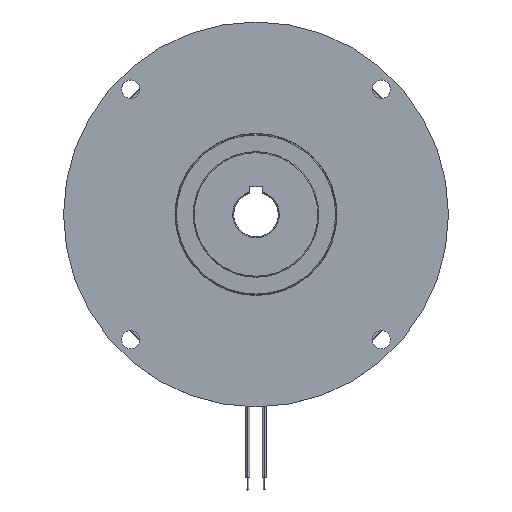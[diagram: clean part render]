
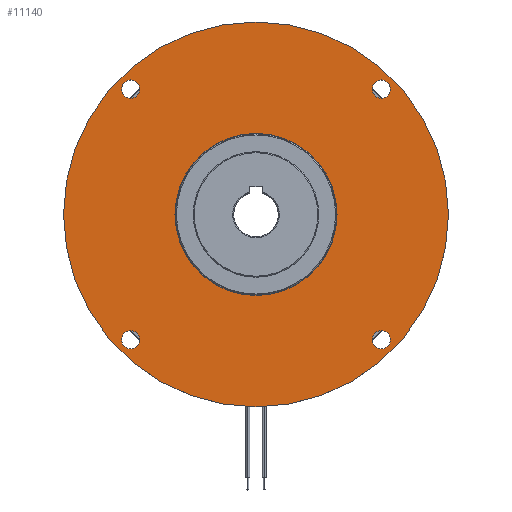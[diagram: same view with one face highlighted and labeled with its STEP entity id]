
A CAD part, top view. The second image highlights one B-rep face of the part: STEP entity #11140.
In plain terms, the highlighted planar face has unit normal (0, 0, 1).
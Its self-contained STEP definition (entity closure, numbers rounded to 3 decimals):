
#18 = ORIENTED_EDGE ( 'NONE', *, *, #7373, .T. ) ;
#30 = ORIENTED_EDGE ( 'NONE', *, *, #7235, .T. ) ;
#134 = CIRCLE ( 'NONE', #18789, 40. ) ;
#138 = CARTESIAN_POINT ( 'NONE',  ( -95., 0., 0. ) ) ;
#245 = AXIS2_PLACEMENT_3D ( 'NONE', #16481, #1233, #24253 ) ;
#446 = CIRCLE ( 'NONE', #14615, 4.5 ) ;
#602 = DIRECTION ( 'NONE',  ( 0., 0., -1. ) ) ;
#657 = AXIS2_PLACEMENT_3D ( 'NONE', #1292, #14985, #7130 ) ;
#1233 = DIRECTION ( 'NONE',  ( 0., 0., -1. ) ) ;
#1292 = CARTESIAN_POINT ( 'NONE',  ( -61.872, 61.872, 0. ) ) ;
#1339 = AXIS2_PLACEMENT_3D ( 'NONE', #4431, #2659, #24353 ) ;
#1462 = EDGE_LOOP ( 'NONE', ( #7911, #4846 ) ) ;
#1552 = CARTESIAN_POINT ( 'NONE',  ( 57.372, -61.872, 0. ) ) ;
#1815 = DIRECTION ( 'NONE',  ( 0., 0., -1. ) ) ;
#1866 = AXIS2_PLACEMENT_3D ( 'NONE', #4340, #21508, #15507 ) ;
#2236 = CARTESIAN_POINT ( 'NONE',  ( 95., 0., 0. ) ) ;
#2257 = CARTESIAN_POINT ( 'NONE',  ( -61.872, -61.872, 0. ) ) ;
#2659 = DIRECTION ( 'NONE',  ( 0., 0., -1. ) ) ;
#2697 = AXIS2_PLACEMENT_3D ( 'NONE', #14528, #4865, #10723 ) ;
#3231 = CARTESIAN_POINT ( 'NONE',  ( 66.372, -61.872, 0. ) ) ;
#3463 = EDGE_CURVE ( 'NONE', #24511, #10963, #6293, .T. ) ;
#3589 = ORIENTED_EDGE ( 'NONE', *, *, #7072, .T. ) ;
#3897 = ORIENTED_EDGE ( 'NONE', *, *, #17173, .T. ) ;
#4066 = DIRECTION ( 'NONE',  ( 0., 0., -1. ) ) ;
#4340 = CARTESIAN_POINT ( 'NONE',  ( 0., 95., 0. ) ) ;
#4391 = DIRECTION ( 'NONE',  ( -1., 0., 0. ) ) ;
#4428 = CARTESIAN_POINT ( 'NONE',  ( -40., 0., 0. ) ) ;
#4431 = CARTESIAN_POINT ( 'NONE',  ( 0., 0., 0. ) ) ;
#4680 = CIRCLE ( 'NONE', #657, 4.5 ) ;
#4846 = ORIENTED_EDGE ( 'NONE', *, *, #3463, .T. ) ;
#4865 = DIRECTION ( 'NONE',  ( 0., 0., -1. ) ) ;
#5722 = FACE_BOUND ( 'NONE', #20612, .T. ) ;
#5845 = ORIENTED_EDGE ( 'NONE', *, *, #14021, .T. ) ;
#6293 = CIRCLE ( 'NONE', #20484, 4.5 ) ;
#6324 = CIRCLE ( 'NONE', #245, 4.5 ) ;
#6563 = EDGE_CURVE ( 'NONE', #10963, #24511, #20200, .T. ) ;
#7018 = VERTEX_POINT ( 'NONE', #138 ) ;
#7072 = EDGE_CURVE ( 'NONE', #19446, #14042, #19822, .T. ) ;
#7130 = DIRECTION ( 'NONE',  ( -1., 0., 0. ) ) ;
#7143 = VERTEX_POINT ( 'NONE', #18292 ) ;
#7235 = EDGE_CURVE ( 'NONE', #19044, #13735, #23498, .T. ) ;
#7373 = EDGE_CURVE ( 'NONE', #7143, #12130, #19019, .T. ) ;
#7634 = FACE_BOUND ( 'NONE', #1462, .T. ) ;
#7645 = DIRECTION ( 'NONE',  ( -1., 0., 0. ) ) ;
#7791 = VERTEX_POINT ( 'NONE', #2236 ) ;
#7834 = DIRECTION ( 'NONE',  ( -1., 0., 0. ) ) ;
#7878 = AXIS2_PLACEMENT_3D ( 'NONE', #22440, #602, #16588 ) ;
#7911 = ORIENTED_EDGE ( 'NONE', *, *, #6563, .T. ) ;
#8169 = CARTESIAN_POINT ( 'NONE',  ( -66.372, -61.872, 0. ) ) ;
#8189 = CARTESIAN_POINT ( 'NONE',  ( -61.872, 61.872, 0. ) ) ;
#8523 = EDGE_CURVE ( 'NONE', #21946, #20994, #446, .T. ) ;
#8651 = EDGE_LOOP ( 'NONE', ( #30, #11498 ) ) ;
#8703 = DIRECTION ( 'NONE',  ( -1., 0., 0. ) ) ;
#9167 = CIRCLE ( 'NONE', #2697, 4.5 ) ;
#9697 = CARTESIAN_POINT ( 'NONE',  ( -61.872, -61.872, 0. ) ) ;
#9922 = CARTESIAN_POINT ( 'NONE',  ( 61.872, -61.872, 0. ) ) ;
#10094 = AXIS2_PLACEMENT_3D ( 'NONE', #9922, #4066, #23021 ) ;
#10723 = DIRECTION ( 'NONE',  ( -1., 0., 0. ) ) ;
#10963 = VERTEX_POINT ( 'NONE', #8169 ) ;
#11140 = ADVANCED_FACE ( 'NONE', ( #19213, #16798, #7634, #5722, #18707, #24585 ), #14878, .F. ) ;
#11182 = CARTESIAN_POINT ( 'NONE',  ( -57.372, 61.872, 0. ) ) ;
#11272 = CARTESIAN_POINT ( 'NONE',  ( 40., 0., 0. ) ) ;
#11437 = CARTESIAN_POINT ( 'NONE',  ( 57.372, 61.872, 0. ) ) ;
#11498 = ORIENTED_EDGE ( 'NONE', *, *, #20202, .T. ) ;
#11721 = AXIS2_PLACEMENT_3D ( 'NONE', #14709, #22480, #18785 ) ;
#11745 = ORIENTED_EDGE ( 'NONE', *, *, #20271, .F. ) ;
#11796 = DIRECTION ( 'NONE',  ( 0., 0., -1. ) ) ;
#12130 = VERTEX_POINT ( 'NONE', #11437 ) ;
#12563 = EDGE_LOOP ( 'NONE', ( #24449, #18 ) ) ;
#13629 = EDGE_CURVE ( 'NONE', #12130, #7143, #6324, .T. ) ;
#13735 = VERTEX_POINT ( 'NONE', #11272 ) ;
#13966 = CARTESIAN_POINT ( 'NONE',  ( 0., 0., 0. ) ) ;
#14021 = EDGE_CURVE ( 'NONE', #20994, #21946, #4680, .T. ) ;
#14042 = VERTEX_POINT ( 'NONE', #1552 ) ;
#14528 = CARTESIAN_POINT ( 'NONE',  ( 61.872, -61.872, 0. ) ) ;
#14615 = AXIS2_PLACEMENT_3D ( 'NONE', #8189, #21819, #4391 ) ;
#14709 = CARTESIAN_POINT ( 'NONE',  ( 0., 0., 0. ) ) ;
#14878 = PLANE ( 'NONE',  #1866 ) ;
#14974 = CARTESIAN_POINT ( 'NONE',  ( -57.372, -61.872, 0. ) ) ;
#14985 = DIRECTION ( 'NONE',  ( 0., 0., -1. ) ) ;
#15202 = EDGE_CURVE ( 'NONE', #7791, #7018, #24956, .T. ) ;
#15329 = CARTESIAN_POINT ( 'NONE',  ( 61.872, 61.872, 0. ) ) ;
#15507 = DIRECTION ( 'NONE',  ( -1., 0., 0. ) ) ;
#16481 = CARTESIAN_POINT ( 'NONE',  ( 61.872, 61.872, 0. ) ) ;
#16584 = AXIS2_PLACEMENT_3D ( 'NONE', #15329, #11796, #7834 ) ;
#16588 = DIRECTION ( 'NONE',  ( -1., 0., 0. ) ) ;
#16798 = FACE_BOUND ( 'NONE', #16826, .T. ) ;
#16826 = EDGE_LOOP ( 'NONE', ( #3897, #3589 ) ) ;
#17173 = EDGE_CURVE ( 'NONE', #14042, #19446, #9167, .T. ) ;
#17793 = DIRECTION ( 'NONE',  ( -1., 0., 0. ) ) ;
#18292 = CARTESIAN_POINT ( 'NONE',  ( 66.372, 61.872, 0. ) ) ;
#18707 = FACE_OUTER_BOUND ( 'NONE', #25103, .T. ) ;
#18785 = DIRECTION ( 'NONE',  ( -1., 0., 0. ) ) ;
#18789 = AXIS2_PLACEMENT_3D ( 'NONE', #13966, #21474, #17793 ) ;
#19019 = CIRCLE ( 'NONE', #16584, 4.5 ) ;
#19044 = VERTEX_POINT ( 'NONE', #4428 ) ;
#19213 = FACE_BOUND ( 'NONE', #12563, .T. ) ;
#19446 = VERTEX_POINT ( 'NONE', #3231 ) ;
#19684 = CARTESIAN_POINT ( 'NONE',  ( -66.372, 61.872, 0. ) ) ;
#19822 = CIRCLE ( 'NONE', #10094, 4.5 ) ;
#20200 = CIRCLE ( 'NONE', #20614, 4.5 ) ;
#20202 = EDGE_CURVE ( 'NONE', #13735, #19044, #134, .T. ) ;
#20271 = EDGE_CURVE ( 'NONE', #7018, #7791, #20416, .T. ) ;
#20416 = CIRCLE ( 'NONE', #1339, 95. ) ;
#20484 = AXIS2_PLACEMENT_3D ( 'NONE', #2257, #22692, #8703 ) ;
#20612 = EDGE_LOOP ( 'NONE', ( #24834, #5845 ) ) ;
#20614 = AXIS2_PLACEMENT_3D ( 'NONE', #9697, #1815, #7645 ) ;
#20994 = VERTEX_POINT ( 'NONE', #11182 ) ;
#21474 = DIRECTION ( 'NONE',  ( 0., 0., -1. ) ) ;
#21508 = DIRECTION ( 'NONE',  ( 0., 0., -1. ) ) ;
#21819 = DIRECTION ( 'NONE',  ( 0., 0., -1. ) ) ;
#21946 = VERTEX_POINT ( 'NONE', #19684 ) ;
#22440 = CARTESIAN_POINT ( 'NONE',  ( 0., 0., 0. ) ) ;
#22480 = DIRECTION ( 'NONE',  ( 0., 0., -1. ) ) ;
#22692 = DIRECTION ( 'NONE',  ( 0., 0., -1. ) ) ;
#23021 = DIRECTION ( 'NONE',  ( -1., 0., 0. ) ) ;
#23498 = CIRCLE ( 'NONE', #11721, 40. ) ;
#24095 = ORIENTED_EDGE ( 'NONE', *, *, #15202, .F. ) ;
#24253 = DIRECTION ( 'NONE',  ( -1., 0., 0. ) ) ;
#24353 = DIRECTION ( 'NONE',  ( -1., 0., 0. ) ) ;
#24449 = ORIENTED_EDGE ( 'NONE', *, *, #13629, .T. ) ;
#24511 = VERTEX_POINT ( 'NONE', #14974 ) ;
#24585 = FACE_BOUND ( 'NONE', #8651, .T. ) ;
#24834 = ORIENTED_EDGE ( 'NONE', *, *, #8523, .T. ) ;
#24956 = CIRCLE ( 'NONE', #7878, 95. ) ;
#25103 = EDGE_LOOP ( 'NONE', ( #11745, #24095 ) ) ;
